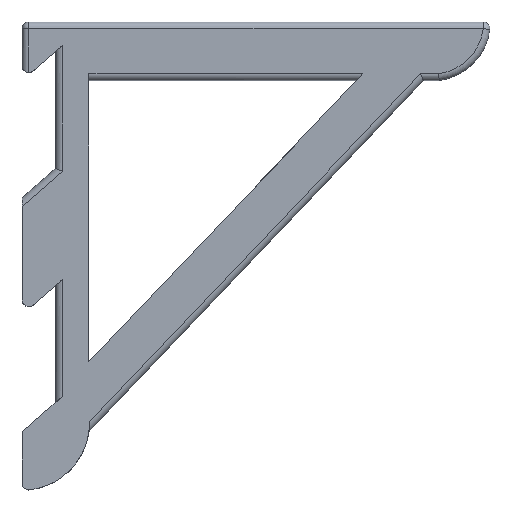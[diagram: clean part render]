
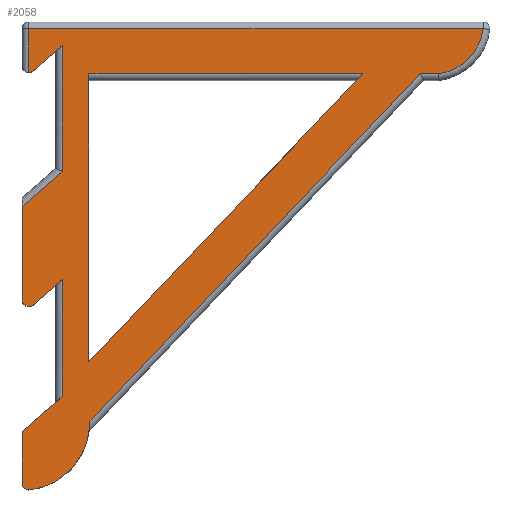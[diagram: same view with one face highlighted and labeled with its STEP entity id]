
A CAD part, top view. The second image highlights one B-rep face of the part: STEP entity #2058.
In plain terms, the highlighted planar face has unit normal (0, 0, 1).
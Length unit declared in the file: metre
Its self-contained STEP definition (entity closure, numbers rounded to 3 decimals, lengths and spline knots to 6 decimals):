
#195=CIRCLE('',#2197,0.012813);
#198=CIRCLE('',#2218,0.00127);
#199=CIRCLE('',#2219,0.00127);
#200=CIRCLE('',#2220,0.00127);
#201=CIRCLE('',#2221,0.009942);
#202=CIRCLE('',#2222,0.00127);
#396=ORIENTED_EDGE('',*,*,#1000,.F.);
#397=ORIENTED_EDGE('',*,*,#1026,.T.);
#398=ORIENTED_EDGE('',*,*,#1027,.T.);
#399=ORIENTED_EDGE('',*,*,#900,.F.);
#400=ORIENTED_EDGE('',*,*,#1028,.T.);
#401=ORIENTED_EDGE('',*,*,#1011,.F.);
#402=ORIENTED_EDGE('',*,*,#1029,.T.);
#403=ORIENTED_EDGE('',*,*,#1017,.F.);
#404=ORIENTED_EDGE('',*,*,#1030,.T.);
#405=ORIENTED_EDGE('',*,*,#1019,.F.);
#406=ORIENTED_EDGE('',*,*,#1031,.T.);
#407=ORIENTED_EDGE('',*,*,#978,.T.);
#408=ORIENTED_EDGE('',*,*,#1032,.T.);
#409=ORIENTED_EDGE('',*,*,#1033,.T.);
#410=ORIENTED_EDGE('',*,*,#1034,.T.);
#411=ORIENTED_EDGE('',*,*,#1035,.T.);
#412=ORIENTED_EDGE('',*,*,#1036,.T.);
#413=ORIENTED_EDGE('',*,*,#1037,.T.);
#414=ORIENTED_EDGE('',*,*,#1038,.T.);
#415=ORIENTED_EDGE('',*,*,#1024,.F.);
#416=ORIENTED_EDGE('',*,*,#970,.F.);
#900=EDGE_CURVE('',#1220,#1221,#1420,.T.);
#970=EDGE_CURVE('',#1290,#1286,#1440,.T.);
#978=EDGE_CURVE('',#1293,#1297,#195,.T.);
#1000=EDGE_CURVE('',#1316,#1312,#1464,.T.);
#1011=EDGE_CURVE('',#1325,#1321,#1474,.T.);
#1017=EDGE_CURVE('',#1329,#1330,#1480,.T.);
#1019=EDGE_CURVE('',#1331,#1332,#1481,.T.);
#1024=EDGE_CURVE('',#1286,#1335,#1486,.T.);
#1026=EDGE_CURVE('',#1316,#1336,#1487,.T.);
#1027=EDGE_CURVE('',#1336,#1221,#1488,.F.);
#1028=EDGE_CURVE('',#1220,#1321,#198,.T.);
#1029=EDGE_CURVE('',#1325,#1330,#1489,.F.);
#1030=EDGE_CURVE('',#1329,#1332,#199,.T.);
#1031=EDGE_CURVE('',#1331,#1293,#200,.T.);
#1032=EDGE_CURVE('',#1297,#1337,#1490,.F.);
#1033=EDGE_CURVE('',#1337,#1338,#1491,.T.);
#1034=EDGE_CURVE('',#1338,#1339,#201,.T.);
#1035=EDGE_CURVE('',#1339,#1340,#1492,.F.);
#1036=EDGE_CURVE('',#1340,#1341,#1493,.F.);
#1037=EDGE_CURVE('',#1341,#1312,#202,.T.);
#1038=EDGE_CURVE('',#1290,#1335,#1494,.T.);
#1220=VERTEX_POINT('',#2846);
#1221=VERTEX_POINT('',#2847);
#1286=VERTEX_POINT('',#3053);
#1290=VERTEX_POINT('',#3060);
#1293=VERTEX_POINT('',#3070);
#1297=VERTEX_POINT('',#3082);
#1312=VERTEX_POINT('',#3122);
#1316=VERTEX_POINT('',#3129);
#1321=VERTEX_POINT('',#3145);
#1325=VERTEX_POINT('',#3152);
#1329=VERTEX_POINT('',#3164);
#1330=VERTEX_POINT('',#3166);
#1331=VERTEX_POINT('',#3170);
#1332=VERTEX_POINT('',#3171);
#1335=VERTEX_POINT('',#3180);
#1336=VERTEX_POINT('',#3184);
#1337=VERTEX_POINT('',#3191);
#1338=VERTEX_POINT('',#3193);
#1339=VERTEX_POINT('',#3195);
#1340=VERTEX_POINT('',#3197);
#1341=VERTEX_POINT('',#3199);
#1420=LINE('',#2845,#1584);
#1440=LINE('',#3061,#1604);
#1464=LINE('',#3130,#1628);
#1474=LINE('',#3153,#1638);
#1480=LINE('',#3165,#1644);
#1481=LINE('',#3169,#1645);
#1486=LINE('',#3179,#1650);
#1487=LINE('',#3183,#1651);
#1488=LINE('',#3185,#1652);
#1489=LINE('',#3187,#1653);
#1490=LINE('',#3190,#1654);
#1491=LINE('',#3192,#1655);
#1492=LINE('',#3196,#1656);
#1493=LINE('',#3198,#1657);
#1494=LINE('',#3201,#1658);
#1584=VECTOR('',#2349,1.);
#1604=VECTOR('',#2397,1.);
#1628=VECTOR('',#2447,1.);
#1638=VECTOR('',#2465,1.);
#1644=VECTOR('',#2475,1.);
#1645=VECTOR('',#2480,1.);
#1650=VECTOR('',#2487,1.);
#1651=VECTOR('',#2492,1.);
#1652=VECTOR('',#2493,1.);
#1653=VECTOR('',#2496,1.);
#1654=VECTOR('',#2501,1.);
#1655=VECTOR('',#2502,1.);
#1656=VECTOR('',#2505,1.);
#1657=VECTOR('',#2506,1.);
#1658=VECTOR('',#2509,1.);
#1768=EDGE_LOOP('',(#396,#397,#398,#399,#400,#401,#402,#403,#404,#405,#406,
#407,#408,#409,#410,#411,#412,#413));
#1769=EDGE_LOOP('',(#414,#415,#416));
#1898=FACE_BOUND('',#1768,.T.);
#1899=FACE_BOUND('',#1769,.T.);
#2023=PLANE('',#2217);
#2058=ADVANCED_FACE('',(#1898,#1899),#2023,.T.);
#2197=AXIS2_PLACEMENT_3D('',#3083,#2409,#2410);
#2217=AXIS2_PLACEMENT_3D('',#3182,#2490,#2491);
#2218=AXIS2_PLACEMENT_3D('',#3186,#2494,#2495);
#2219=AXIS2_PLACEMENT_3D('',#3188,#2497,#2498);
#2220=AXIS2_PLACEMENT_3D('',#3189,#2499,#2500);
#2221=AXIS2_PLACEMENT_3D('',#3194,#2503,#2504);
#2222=AXIS2_PLACEMENT_3D('',#3200,#2507,#2508);
#2349=DIRECTION('',(0.,1.,0.));
#2397=DIRECTION('',(0.,-1.,0.));
#2409=DIRECTION('',(0.,0.,1.));
#2410=DIRECTION('',(1.,0.,0.));
#2447=DIRECTION('',(-0.753,-0.659,0.));
#2465=DIRECTION('',(-0.753,-0.659,0.));
#2475=DIRECTION('',(0.753,0.659,0.));
#2480=DIRECTION('',(0.,1.,0.));
#2487=DIRECTION('',(0.69,0.724,0.));
#2490=DIRECTION('',(0.,0.,1.));
#2491=DIRECTION('',(1.,0.,0.));
#2492=DIRECTION('',(0.,-1.,0.));
#2493=DIRECTION('',(0.753,0.659,0.));
#2494=DIRECTION('',(0.,0.,1.));
#2495=DIRECTION('',(1.,0.,0.));
#2496=DIRECTION('',(0.,1.,0.));
#2497=DIRECTION('',(0.,0.,1.));
#2498=DIRECTION('',(1.,0.,0.));
#2499=DIRECTION('',(0.,0.,1.));
#2500=DIRECTION('',(1.,0.,0.));
#2501=DIRECTION('',(-0.69,-0.724,0.));
#2502=DIRECTION('',(1.,0.,0.));
#2503=DIRECTION('',(0.,0.,1.));
#2504=DIRECTION('',(1.,0.,0.));
#2505=DIRECTION('',(1.,0.,0.));
#2506=DIRECTION('',(0.,1.,0.));
#2507=DIRECTION('',(0.,0.,1.));
#2508=DIRECTION('',(1.,0.,0.));
#2509=DIRECTION('',(1.,0.,0.));
#2845=CARTESIAN_POINT('',(-0.00635,0.002778,0.0127));
#2846=CARTESIAN_POINT('',(-0.00635,-0.008314,0.0127));
#2847=CARTESIAN_POINT('',(-0.00635,0.009425,0.0127));
#3053=CARTESIAN_POINT('',(0.00635,-0.020003,0.0127));
#3060=CARTESIAN_POINT('',(0.00635,0.034608,0.0127));
#3061=CARTESIAN_POINT('',(0.00635,-0.010001,0.0127));
#3070=CARTESIAN_POINT('',(-0.00494,-0.044372,0.0127));
#3082=CARTESIAN_POINT('',(0.006461,-0.03138,0.0127));
#3083=CARTESIAN_POINT('',(-0.00635,-0.031637,0.0127));
#3122=CARTESIAN_POINT('',(-0.004244,0.035181,0.0127));
#3129=CARTESIAN_POINT('',(0.00127,0.040005,0.0127));
#3130=CARTESIAN_POINT('',(-0.003175,0.036116,0.0127));
#3145=CARTESIAN_POINT('',(-0.004244,-0.009269,0.0127));
#3152=CARTESIAN_POINT('',(0.00127,-0.004445,0.0127));
#3153=CARTESIAN_POINT('',(-0.003175,-0.008334,0.0127));
#3164=CARTESIAN_POINT('',(-0.005916,-0.032958,0.0127));
#3165=CARTESIAN_POINT('',(-0.003175,-0.030559,0.0127));
#3166=CARTESIAN_POINT('',(0.00127,-0.02667,0.0127));
#3169=CARTESIAN_POINT('',(-0.00635,-0.038894,0.0127));
#3170=CARTESIAN_POINT('',(-0.00635,-0.04311,0.0127));
#3171=CARTESIAN_POINT('',(-0.00635,-0.033914,0.0127));
#3179=CARTESIAN_POINT('',(0.03175,0.006668,0.0127));
#3180=CARTESIAN_POINT('',(0.05836,0.034608,0.0127));
#3182=CARTESIAN_POINT('',(0.0381,0.,0.0127));
#3183=CARTESIAN_POINT('',(0.00127,0.016669,0.0127));
#3184=CARTESIAN_POINT('',(0.00127,0.016092,0.0127));
#3185=CARTESIAN_POINT('',(0.014154,0.027366,0.0127));
#3186=CARTESIAN_POINT('',(-0.00508,-0.008314,0.0127));
#3187=CARTESIAN_POINT('',(0.00127,0.,0.0127));
#3188=CARTESIAN_POINT('',(-0.00508,-0.033914,0.0127));
#3189=CARTESIAN_POINT('',(-0.00508,-0.04311,0.0127));
#3190=CARTESIAN_POINT('',(0.03718,0.000876,0.0127));
#3191=CARTESIAN_POINT('',(0.069306,0.034608,0.0127));
#3192=CARTESIAN_POINT('',(0.072827,0.034608,0.0127));
#3193=CARTESIAN_POINT('',(0.072739,0.034608,0.0127));
#3194=CARTESIAN_POINT('',(0.071338,0.04445,0.0127));
#3195=CARTESIAN_POINT('',(0.081199,0.04318,0.0127));
#3196=CARTESIAN_POINT('',(0.0381,0.04318,0.0127));
#3197=CARTESIAN_POINT('',(-0.00508,0.04318,0.0127));
#3198=CARTESIAN_POINT('',(-0.00508,0.,0.0127));
#3199=CARTESIAN_POINT('',(-0.00508,0.034866,0.0127));
#3200=CARTESIAN_POINT('',(-0.00508,0.036136,0.0127));
#3201=CARTESIAN_POINT('',(0.05715,0.034608,0.0127));
